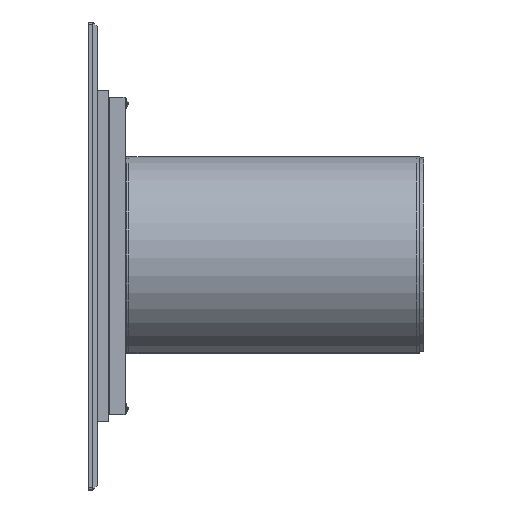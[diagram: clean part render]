
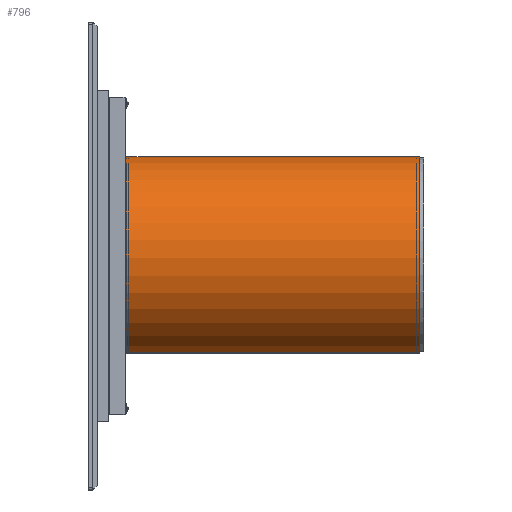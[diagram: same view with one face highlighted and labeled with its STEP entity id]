
A CAD part, left-side view. The second image highlights one B-rep face of the part: STEP entity #796.
In plain terms, the highlighted cylindrical face has radius 230 mm (diameter 460 mm), a partial arc.
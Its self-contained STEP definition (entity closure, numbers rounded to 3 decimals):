
#796 = ADVANCED_FACE ( 'NONE', ( #15018 ), #1177, .T. ) ;
#1177 = CYLINDRICAL_SURFACE ( 'NONE', #7653, 230. ) ;
#2190 = ORIENTED_EDGE ( 'NONE', *, *, #14230, .F. ) ;
#3237 = DIRECTION ( 'NONE',  ( 0., 0., 1. ) ) ;
#3484 = LINE ( 'NONE', #20717, #8135 ) ;
#4555 = CARTESIAN_POINT ( 'NONE',  ( 2., 665., 230. ) ) ;
#4709 = CARTESIAN_POINT ( 'NONE',  ( 2., 665., 230. ) ) ;
#5230 = AXIS2_PLACEMENT_3D ( 'NONE', #18888, #22408, #3237 ) ;
#5707 = DIRECTION ( 'NONE',  ( 0., 1., 0. ) ) ;
#5867 = DIRECTION ( 'NONE',  ( 0., -1., 0. ) ) ;
#5970 = ORIENTED_EDGE ( 'NONE', *, *, #16572, .F. ) ;
#6378 = DIRECTION ( 'NONE',  ( 0., 0., -1. ) ) ;
#6624 = EDGE_LOOP ( 'NONE', ( #14087, #2190, #5970, #17997 ) ) ;
#7653 = AXIS2_PLACEMENT_3D ( 'NONE', #9687, #21935, #6378 ) ;
#7667 = EDGE_CURVE ( 'NONE', #21519, #20716, #18552, .T. ) ;
#7687 = LINE ( 'NONE', #4709, #20561 ) ;
#8135 = VECTOR ( 'NONE', #17440, 1000. ) ;
#9158 = CARTESIAN_POINT ( 'NONE',  ( 2., 0., -230. ) ) ;
#9687 = CARTESIAN_POINT ( 'NONE',  ( 2., 665., 0. ) ) ;
#9952 = CARTESIAN_POINT ( 'NONE',  ( 2., 665., -230. ) ) ;
#10933 = DIRECTION ( 'NONE',  ( 0., 0., 1. ) ) ;
#13189 = CIRCLE ( 'NONE', #5230, 230. ) ;
#13721 = VERTEX_POINT ( 'NONE', #4555 ) ;
#14087 = ORIENTED_EDGE ( 'NONE', *, *, #7667, .T. ) ;
#14230 = EDGE_CURVE ( 'NONE', #15944, #20716, #3484, .T. ) ;
#14799 = CARTESIAN_POINT ( 'NONE',  ( 2., 0., 0. ) ) ;
#15018 = FACE_OUTER_BOUND ( 'NONE', #6624, .T. ) ;
#15664 = AXIS2_PLACEMENT_3D ( 'NONE', #14799, #5707, #10933 ) ;
#15944 = VERTEX_POINT ( 'NONE', #9952 ) ;
#16572 = EDGE_CURVE ( 'NONE', #13721, #15944, #13189, .T. ) ;
#17440 = DIRECTION ( 'NONE',  ( 0., -1., 0. ) ) ;
#17832 = EDGE_CURVE ( 'NONE', #13721, #21519, #7687, .T. ) ;
#17997 = ORIENTED_EDGE ( 'NONE', *, *, #17832, .T. ) ;
#18552 = CIRCLE ( 'NONE', #15664, 230. ) ;
#18654 = CARTESIAN_POINT ( 'NONE',  ( 2., 0., 230. ) ) ;
#18888 = CARTESIAN_POINT ( 'NONE',  ( 2., 665., 0. ) ) ;
#20561 = VECTOR ( 'NONE', #5867, 1000. ) ;
#20716 = VERTEX_POINT ( 'NONE', #9158 ) ;
#20717 = CARTESIAN_POINT ( 'NONE',  ( 2., 665., -230. ) ) ;
#21519 = VERTEX_POINT ( 'NONE', #18654 ) ;
#21935 = DIRECTION ( 'NONE',  ( 0., -1., 0. ) ) ;
#22408 = DIRECTION ( 'NONE',  ( 0., 1., 0. ) ) ;
